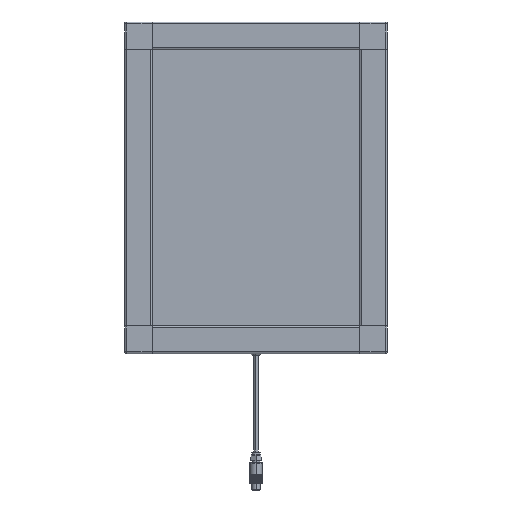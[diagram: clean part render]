
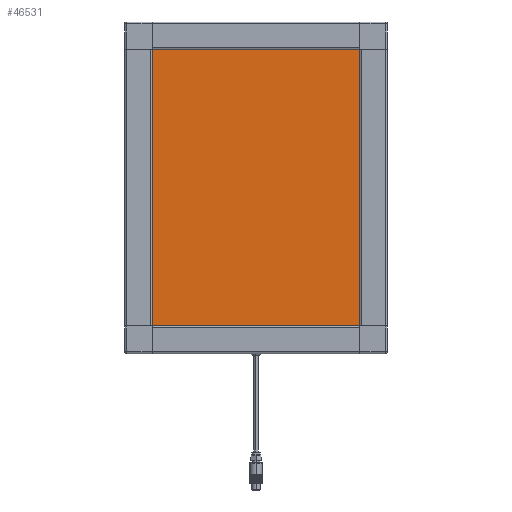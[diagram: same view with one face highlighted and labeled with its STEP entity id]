
A CAD part, left-side view. The second image highlights one B-rep face of the part: STEP entity #46531.
In plain terms, the highlighted planar face has unit normal (-1, 0, 0).
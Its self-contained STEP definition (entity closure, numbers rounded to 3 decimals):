
#9740 = DIRECTION ( 'NONE',  ( 0., 0., -1. ) ) ;
#9741 = VECTOR ( 'NONE', #9740, 1000. ) ;
#9742 = CARTESIAN_POINT ( 'NONE',  ( -91.698, -97.948, 209. ) ) ;
#9743 = LINE ( 'NONE', #9742, #9741 ) ;
#9825 = DIRECTION ( 'NONE',  ( 0., -1., 0. ) ) ;
#9826 = DIRECTION ( 'NONE',  ( 1., 0., 0. ) ) ;
#9827 = CARTESIAN_POINT ( 'NONE',  ( -91.698, -97.948, -209. ) ) ;
#9828 = AXIS2_PLACEMENT_3D ( 'NONE', #9827, #9826, #9825 ) ;
#9831 = PLANE ( 'NONE',  #9828 ) ;
#9850 = FACE_OUTER_BOUND ( 'NONE', #46457, .T. ) ;
#9855 = DIRECTION ( 'NONE',  ( 0., -1., 0. ) ) ;
#9856 = VECTOR ( 'NONE', #9855, 1000. ) ;
#9857 = CARTESIAN_POINT ( 'NONE',  ( -91.698, 220.052, 209. ) ) ;
#9858 = LINE ( 'NONE', #9857, #9856 ) ;
#9897 = DIRECTION ( 'NONE',  ( 0., 1., 0. ) ) ;
#9898 = VECTOR ( 'NONE', #9897, 1000. ) ;
#9899 = CARTESIAN_POINT ( 'NONE',  ( -91.698, -97.948, -209. ) ) ;
#9900 = LINE ( 'NONE', #9899, #9898 ) ;
#9919 = CARTESIAN_POINT ( 'NONE',  ( -91.698, -97.948, -209. ) ) ;
#9920 = CARTESIAN_POINT ( 'NONE',  ( -91.698, -97.948, 209. ) ) ;
#9921 = CARTESIAN_POINT ( 'NONE',  ( -91.698, 220.052, 209. ) ) ;
#9922 = DIRECTION ( 'NONE',  ( 0., 0., 1. ) ) ;
#9923 = VECTOR ( 'NONE', #9922, 1000. ) ;
#9924 = CARTESIAN_POINT ( 'NONE',  ( -91.698, 220.052, -209. ) ) ;
#9925 = LINE ( 'NONE', #9924, #9923 ) ;
#9938 = CARTESIAN_POINT ( 'NONE',  ( -91.698, 220.052, -209. ) ) ;
#46457 = EDGE_LOOP ( 'NONE', ( #46458, #46459, #46460, #46509 ) ) ;
#46458 = ORIENTED_EDGE ( 'NONE', *, *, #46508, .F. ) ;
#46459 = ORIENTED_EDGE ( 'NONE', *, *, #46537, .F. ) ;
#46460 = ORIENTED_EDGE ( 'NONE', *, *, #46556, .F. ) ;
#46508 = EDGE_CURVE ( 'NONE', #46559, #46560, #9743, .T. ) ;
#46509 = ORIENTED_EDGE ( 'NONE', *, *, #46546, .F. ) ;
#46531 = ADVANCED_FACE ( 'NONE', ( #9850 ), #9831, .F. ) ;
#46537 = EDGE_CURVE ( 'NONE', #46557, #46559, #9858, .T. ) ;
#46546 = EDGE_CURVE ( 'NONE', #46560, #46571, #9900, .T. ) ;
#46556 = EDGE_CURVE ( 'NONE', #46571, #46557, #9925, .T. ) ;
#46557 = VERTEX_POINT ( 'NONE', #9921 ) ;
#46559 = VERTEX_POINT ( 'NONE', #9920 ) ;
#46560 = VERTEX_POINT ( 'NONE', #9919 ) ;
#46571 = VERTEX_POINT ( 'NONE', #9938 ) ;
